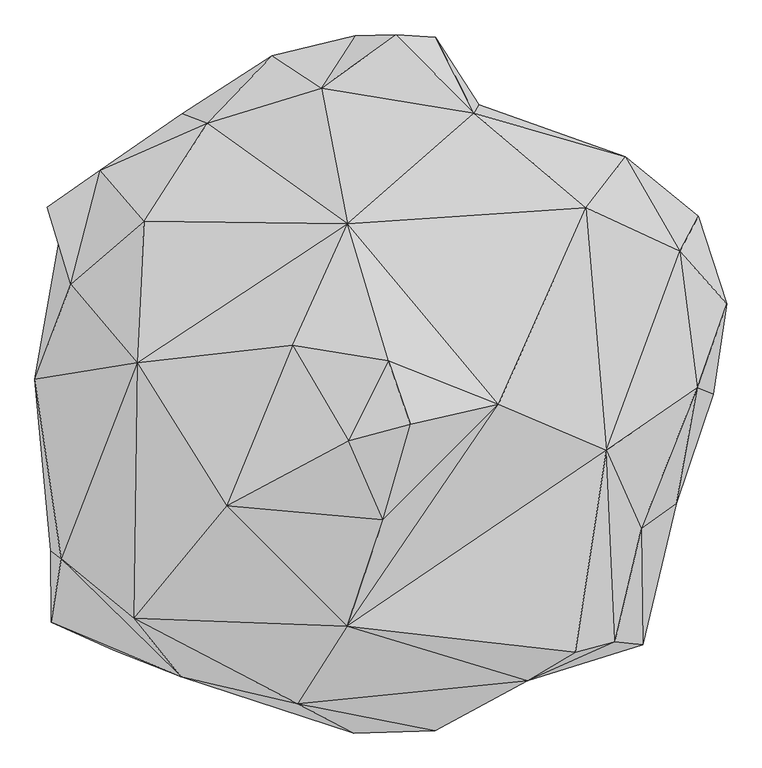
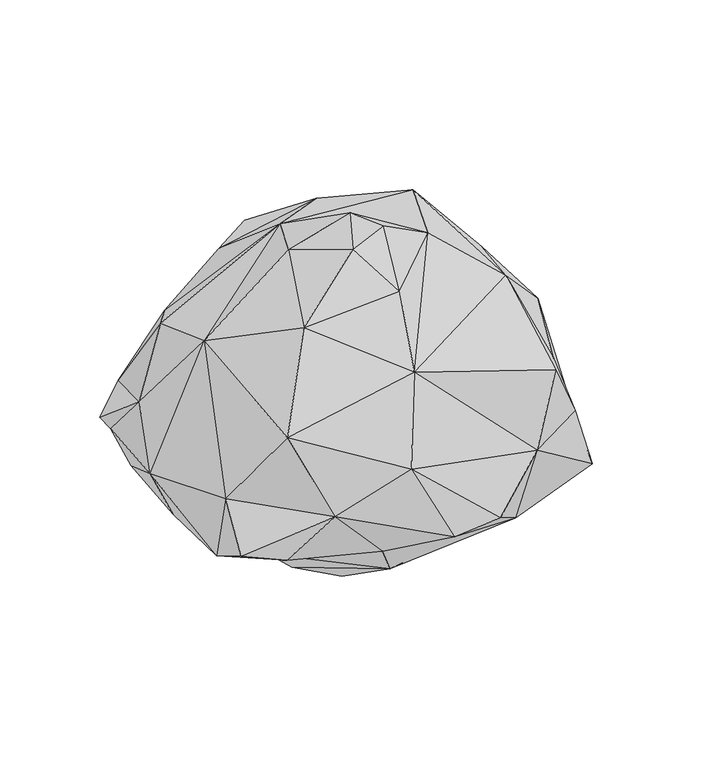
"""IFC4 building model written with IfcOpenShell, lengths in millimetres: geographic element geometry, Enscape AssetDefinition - Yeg Bush : Enscape AssetDefinition - Yeg Bush."""

from ifc_helpers import new_model, si_unit, origin, place, context, project, spatial, faceted_brep, source, transform, mapped, element, save


def geographic_element_7e854a61(model_context):
    return source(origin(), model_context, "Body", "Brep", [
        faceted_brep([(97.7892652, 98.1485918, 0.0), (160.0047797, -179.5626283, 37.216384), (-109.9038348, -103.1278893, 0.0), (-57.8008965, -356.4046323, 166.5240824), (350.6040275, -419.0308154, 283.9225233), (313.746959, -11.4472462, 92.0399651), (566.5103793, -201.2764812, 402.6556015), (-214.1610384, 178.9466441, 69.7101429), (-312.5149608, -93.0666253, 102.5632247), (-426.6794324, 474.8810828, 363.4885848), (26.8471297, 397.2656429, 172.8380173), (-531.193316, 151.2268633, 315.6976104), (-517.7954435, -281.9718719, 347.0107019), (-743.9683676, 315.4922724, 452.1919191), (-757.2122812, -9.7019263, 439.820677), (-240.1868552, -618.8186407, 467.4891531), (-639.5571828, -623.0279803, 569.2309737), (-792.1186686, -383.7651014, 498.5969067), (-829.7457099, 29.0031135, 620.3073263), (-757.6228976, 439.8719966, 543.5131788), (-766.1955357, -403.5795927, 750.1796484), (-583.6555362, 68.7348172, 1092.8783417), (-743.2497144, 258.5127056, 766.4521337), (-790.9380198, -556.7570925, 600.8008122), (-476.5750468, -687.4508262, 741.812408), (-592.0741558, -547.157824, 1045.2927351), (-60.3675433, -823.1237531, 592.1768546), (-196.3485032, -752.3869872, 891.1912441), (-77.6667446, -565.3297305, 1162.6911163), (-367.6465452, -275.0932574, 1283.0156088), (357.3286235, -696.7420578, 748.1776476), (134.4409883, -817.6311255, 603.0080914), (294.5484519, -649.721086, 445.3133047), (636.1178756, -610.6053591, 538.739264), (472.879082, -628.4692287, 1017.9835558), (568.8202977, -602.5974154, 790.0140285), (717.0186043, -270.2166438, 651.1070728), (632.2165728, -330.840826, 842.4249291), (547.9278564, -141.2682682, 1112.3849154), (767.1709061, 8.5212691, 843.1949615), (498.6995459, 442.5926507, 1149.7552395), (287.3618305, -31.2617645, 1323.3119249), (724.7185111, 337.5654221, 884.9286437), (805.9785962, -6.5706167, 655.9323668), (838.8829827, 211.5430534, 728.8764715), (769.3268657, 422.3674536, 650.2857208), (593.7681794, 565.8430457, 786.8313789), (229.098931, 670.0489521, 1068.1359768), (-75.8700892, 403.9902687, 1224.5987654), (240.9055084, 691.0440922, 677.1329045), (607.6280475, 489.7162914, 523.4933496), (747.2023368, 248.6567795, 554.0878177), (425.652802, 244.0368235, 281.4585567), (291.1604643, 494.5415854, 385.0997388), (-125.9197146, 718.7638879, 457.2225213), (-56.9795705, 823.9964247, 560.6584549), (-257.9993904, 808.3398938, 657.1130157), (-57.4415661, 856.9008708, 700.4893422), (-474.6757448, 668.7655449, 557.5784445), (-672.7696061, 533.297956, 669.4329381), (-414.8728549, 646.384418, 816.5531158), (-139.0096098, 730.9811711, 941.3436055), (-566.2024021, 409.7909033, 957.9241276), (-799.6646166, 443.4653223, 607.0120931), (23.3564898, 73.2007772, 1439.1191006), (-208.1037611, 111.6491556, 1333.5784674), (-73.5601112, -118.9384311, 1429.9818277), (76.2294233, -79.2580694, 1456.8289518), (9.8045925, -309.1783226, 1330.7038546), (41.3230211, 858.8514924, 924.3522882), (136.0836327, 853.7695408, 876.8180609)], [[[0, 1, 2]], [[2, 1, 3]], [[1, 4, 3]], [[5, 6, 1]], [[1, 0, 5]], [[1, 6, 4]], [[7, 0, 2]], [[2, 3, 8]], [[2, 8, 7]], [[7, 9, 10]], [[7, 11, 9]], [[7, 8, 11]], [[10, 0, 7]], [[3, 12, 8]], [[12, 11, 8]], [[9, 11, 13]], [[11, 12, 14]], [[11, 14, 13]], [[12, 15, 16]], [[12, 16, 17]], [[3, 15, 12]], [[14, 12, 17]], [[14, 18, 13]], [[14, 17, 18]], [[13, 18, 19]], [[9, 13, 19]], [[17, 20, 18]], [[20, 21, 18]], [[18, 21, 22]], [[18, 22, 19]], [[17, 23, 20]], [[17, 16, 23]], [[23, 24, 20]], [[20, 25, 21]], [[24, 25, 20]], [[16, 24, 23]], [[15, 24, 16]], [[15, 26, 24]], [[26, 27, 24]], [[24, 27, 25]], [[25, 27, 28]], [[25, 29, 21]], [[25, 28, 29]], [[30, 28, 27]], [[26, 31, 27]], [[31, 30, 27]], [[32, 31, 26]], [[32, 26, 15]], [[3, 32, 15]], [[4, 33, 32]], [[4, 32, 3]], [[32, 33, 30]], [[32, 30, 31]], [[34, 28, 30]], [[30, 33, 35]], [[35, 34, 30]], [[4, 6, 33]], [[6, 36, 33]], [[33, 37, 35]], [[36, 37, 33]], [[37, 38, 35]], [[38, 34, 35]], [[34, 38, 28]], [[38, 37, 39]], [[40, 41, 38]], [[38, 41, 28]], [[39, 42, 38]], [[42, 40, 38]], [[36, 39, 37]], [[43, 39, 36]], [[6, 43, 36]], [[43, 44, 39]], [[44, 42, 39]], [[45, 42, 44]], [[46, 40, 42]], [[46, 42, 45]], [[46, 47, 40]], [[47, 48, 40]], [[40, 48, 41]], [[46, 49, 47]], [[50, 49, 46]], [[50, 46, 45]], [[51, 45, 44]], [[45, 51, 50]], [[51, 44, 43]], [[51, 43, 6]], [[52, 50, 51]], [[52, 51, 6]], [[53, 49, 50]], [[50, 52, 53]], [[5, 52, 6]], [[0, 52, 5]], [[0, 10, 52]], [[10, 53, 52]], [[54, 49, 53]], [[10, 54, 53]], [[10, 9, 54]], [[54, 55, 49]], [[54, 56, 57]], [[58, 56, 54]], [[54, 9, 58]], [[54, 57, 55]], [[9, 19, 58]], [[58, 59, 60]], [[19, 59, 58]], [[58, 60, 56]], [[56, 61, 57]], [[56, 60, 61]], [[60, 62, 48]], [[60, 48, 61]], [[59, 62, 60]], [[19, 63, 59]], [[22, 62, 59]], [[63, 22, 59]], [[19, 22, 63]], [[22, 21, 62]], [[62, 21, 48]], [[48, 64, 41]], [[48, 65, 64]], [[61, 48, 47]], [[48, 21, 65]], [[21, 29, 65]], [[65, 29, 66]], [[65, 66, 64]], [[66, 67, 64]], [[41, 64, 67]], [[68, 28, 41]], [[41, 67, 68]], [[66, 68, 67]], [[66, 29, 68]], [[28, 68, 29]], [[69, 61, 47]], [[57, 61, 69]], [[57, 69, 70]], [[69, 47, 70]], [[49, 70, 47]], [[57, 70, 49]], [[55, 57, 49]]]),
    ])


if __name__ == "__main__":
    model = new_model("IFC4")
    model_context = context("Model", 3, world=origin())
    ifc_project = project(units=[si_unit("LENGTHUNIT", "METRE", prefix="MILLI")], contexts=[model_context])
    site = spatial("IfcSite", under=ifc_project)
    building = spatial("IfcBuilding", under=site)
    placement = place(None, origin())
    geographic_element_shape = geographic_element_7e854a61(model_context)
    element("IfcGeographicElement", 1, ObjectType="Enscape AssetDefinition - Yeg Bush : Enscape AssetDefinition - Yeg Bush", at=placement, inside=building, context=model_context, shape_type="MappedRepresentation", body=[
        mapped(geographic_element_shape, transform((0.0, 0.0, 0.0), x_axis=(1.0, 0.0, 0.0), y_axis=(0.0, 1.0, 0.0), z_axis=(0.0, 0.0, 1.0))),
    ])
    save(model, "model.ifc")
